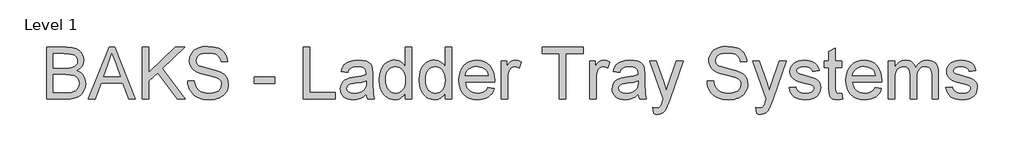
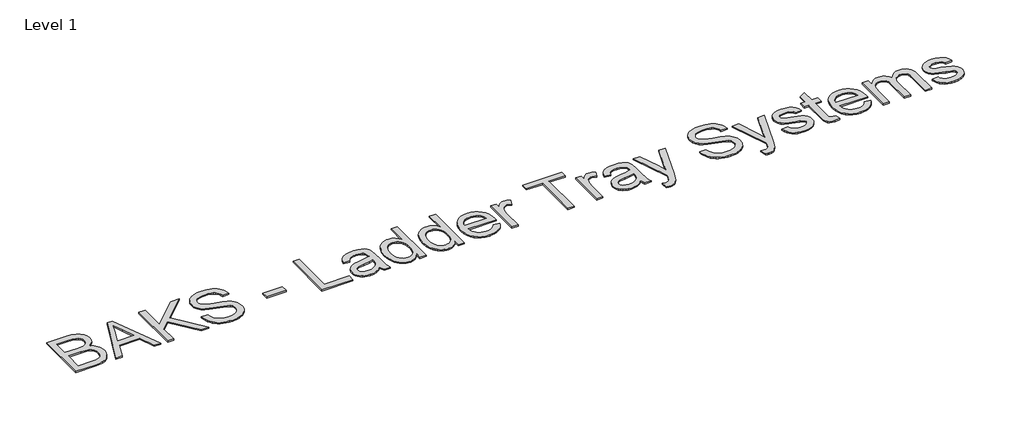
# One storey, part 83 of 106: 1 proxy.
"""IFC4 building model written with IfcOpenShell, lengths in millimetres."""

from ifc_helpers import new_model, si_unit, origin, origin_with_axes, place, context, project, spatial, polyline, outline, extrude, element, save

model = new_model("IFC4")

# Units and contexts
model_context = context("Model", 3, world=origin())
ifc_project = project(units=[si_unit("LENGTHUNIT", "METRE", prefix="MILLI")], contexts=[model_context])

# Site, building, storey
site = spatial("IfcSite", under=ifc_project)
building = spatial("IfcBuilding", under=site)
storey = spatial("IfcBuildingStorey", under=building, Name="Level 1", Elevation=0.0)

# Proxy
placement = place(None, origin())
element("IfcBuildingElementProxy", 1, Name="600mm Arial", ObjectType="600mm Arial", at=placement, inside=storey, context=model_context, shape_type="SweptSolid", body=[
    extrude(outline(polyline([(36097.5732613, 74450.7318965), (36097.5732613, 75053.4697574), (36327.5730847, 75053.4697574), (36390.8303938, 75049.0367793), (36440.2185516, 75035.7378452), (36460.2957115, 75025.6808712), (36478.0736089, 75013.2418612), (36493.5522439, 74998.4208153), (36506.7316164, 74981.2177335), (36524.7762282, 74943.5466172), (36530.7910988, 74904.1096673), (36525.7327214, 74867.8181085), (36510.5575891, 74833.6970535), (36485.1553373, 74803.8434295), (36449.4156015, 74780.3541642), (36472.1553073, 74770.6604736), (36492.1083071, 74758.0605152), (36509.2746007, 74742.5542891), (36523.6541881, 74724.1417953), (36535.0171433, 74703.3840537), (36543.1335398, 74680.8420845), (36548.0033777, 74656.5158875), (36549.626657, 74630.4054629), (36545.193679, 74588.374945), (36531.8947448, 74549.3978476), (36512.0475112, 74516.2516798), (36487.9696346, 74491.7139507), (36458.4838927, 74473.9452504), (36422.4130631, 74461.1061687), (36378.5799233, 74453.3254645), (36325.8072511, 74450.7318965), (36097.5732613, 74450.7318965)]), holes=[polyline([(36172.9154939, 74808.6075014), (36310.5033601, 74808.6075014), (36358.6223251, 74810.2261822), (36390.8487879, 74815.0822245), (36418.9733664, 74826.247443), (36439.188482, 74842.9676797), (36451.3837702, 74864.9854171), (36455.4488662, 74892.0431379), (36451.6596817, 74918.3099123), (36440.292128, 74941.1921724), (36421.8612401, 74959.0528433), (36396.8820526, 74970.2548501), (36358.5487487, 74976.1593561), (36300.0555115, 74978.1275248), (36172.9154939, 74978.1275248), (36172.9154939, 74808.6075014)]), polyline([(36172.9154939, 74526.0741291), (36327.4259319, 74526.0741291), (36383.3439952, 74529.017185), (36409.2980699, 74535.5470905), (36430.6536198, 74545.424722), (36448.0176499, 74559.5697847), (36461.9971657, 74578.9019836), (36471.2126097, 74602.5567959), (36474.2844244, 74629.6696989), (36470.6791808, 74661.1603977), (36459.8634502, 74688.2365126), (36440.9727097, 74709.4081214), (36413.1424368, 74723.1853021), (36373.723881, 74730.7452771), (36320.068292, 74733.2652688), (36172.9154939, 74733.2652688), (36172.9154939, 74526.0741291)])]), origin_with_axes(), (0.0, 0.0, 1.0), 15.0),
    extrude(outline(polyline([(36583.0303422, 74450.7318965), (36823.625167, 75053.4697574), (36887.783787, 75053.4697574), (37128.3786118, 74450.7318965), (37048.7689481, 74450.7318965), (36979.7542858, 74639.087478), (36731.5075154, 74639.087478), (36662.6400059, 74450.7318965), (36583.0303422, 74450.7318965)]), holes=[polyline([(36759.1722415, 74714.4297106), (36952.2367125, 74714.4297106), (36897.93733, 74862.6125783), (36855.704477, 74978.1275248), (36818.1805135, 74875.5620245), (36759.1722415, 74714.4297106)])]), origin_with_axes(), (0.0, 0.0, 1.0), 15.0),
    extrude(outline(polyline([(37208.8711924, 74450.7318965), (37208.8711924, 75053.4697574), (37284.213425, 75053.4697574), (37284.213425, 74758.4283972), (37593.2343009, 75053.4697574), (37698.5957043, 75053.4697574), (37439.1653213, 74805.6644454), (37708.0134834, 74450.7318965), (37615.8958318, 74450.7318965), (37385.7488556, 74754.7495773), (37284.213425, 74657.9230362), (37284.213425, 74450.7318965), (37208.8711924, 74450.7318965)])), origin_with_axes(), (0.0, 0.0, 1.0), 15.0),
    extrude(outline(polyline([(37736.2668206, 74657.9230362), (37811.6090533, 74657.9230362), (37820.2542801, 74616.1132474), (37835.8892649, 74582.5072271), (37860.2798412, 74555.8357825), (37895.1918426, 74534.8297206), (37937.866154, 74521.1996926), (37985.5436606, 74516.65635), (38027.5189962, 74520.0960467), (38064.2704075, 74530.4151366), (38094.050455, 74546.7490972), (38115.1116993, 74568.2334057), (38127.6380812, 74592.8998935), (38131.8135419, 74618.7803919), (38128.6865449, 74643.9987026), (38119.305554, 74665.7957109), (38100.2492667, 74684.3921457), (38068.0963803, 74700.0087364), (37958.3939693, 74728.7771084), (37886.3810688, 74747.8150017), (37840.3038489, 74765.9331899), (37802.7982795, 74791.2802594), (37776.2188053, 74821.998406), (37760.3814854, 74857.4254421), (37755.1023788, 74896.8991802), (37756.7348551, 74919.3353834), (37761.6322842, 74941.0266255), (37769.794666, 74961.9729066), (37781.2220005, 74982.1742267), (37795.7855289, 75000.8074498), (37813.3564927, 75017.0494398), (37833.9348918, 75030.900197), (37857.5207263, 75042.3597211), (37910.5325218, 75057.7555826), (37969.2097, 75062.8875364), (38032.7797088, 75057.5164593), (38088.4034664, 75041.4032279), (38112.7388604, 75029.4010778), (38134.0944102, 75014.8789361), (38152.4701159, 74997.8368026), (38167.8659774, 74978.2746776), (38180.1624331, 74956.7627779), (38189.2399213, 74933.8713207), (38195.0984421, 74909.6003061), (38197.7379954, 74883.949734), (38122.3957628, 74883.949734), (38117.3557794, 74907.9908224), (38108.5633998, 74928.9049138), (38096.0186237, 74946.6920083), (38079.7214513, 74961.3521058), (38059.36838, 74972.8116299), (38034.6559069, 74980.9970043), (38005.5840323, 74985.908229), (37972.1527559, 74987.5453038), (37937.6546218, 74985.9266231), (37908.178077, 74981.0705807), (37883.7231214, 74972.9771768), (37864.289755, 74961.6464114), (37849.4825047, 74948.0255805), (37838.9058973, 74933.0619803), (37832.5599329, 74916.7556109), (37830.4446114, 74899.1064722), (37831.9437305, 74883.9221428), (37836.4410879, 74870.1541592), (37843.9366836, 74857.8025212), (37854.4305175, 74846.8672289), (37870.9484191, 74836.5113507), (37896.9576761, 74826.045108), (37977.4502567, 74804.7815286), (38060.5180112, 74784.5848071), (38110.7706917, 74766.9632595), (38153.7209147, 74739.6296273), (38170.3261882, 74723.5623811), (38183.6849032, 74705.8948483), (38193.9534094, 74686.7189993), (38201.2880566, 74666.1268046), (38207.1557745, 74620.6933782), (38205.4681158, 74597.1259379), (38200.4051399, 74574.2482764), (38191.9668466, 74552.0603935), (38180.153236, 74530.5622894), (38165.1712418, 74510.5862971), (38147.2277975, 74492.9647495), (38126.3229031, 74477.6976467), (38102.4565586, 74464.7849887), (38076.3231414, 74454.5164825), (38048.6170286, 74447.1818352), (37988.4867165, 74441.3141174), (37949.946479, 74442.89601), (37914.6711942, 74447.6416877), (37882.6608621, 74455.5511506), (37853.9154827, 74466.6243987), (37828.2603121, 74480.879826), (37805.5206062, 74498.3358266), (37785.6963652, 74518.9924007), (37768.787589, 74542.8495481), (37755.1667581, 74569.1347166), (37745.2063531, 74597.0753542), (37738.906374, 74626.6714607), (37736.2668206, 74657.9230362)])), origin_with_axes(), (0.0, 0.0, 1.0), 15.0),
    extrude(outline(polyline([(38508.5247049, 74629.6696989), (38508.5247049, 74705.0119315), (38743.9691818, 74705.0119315), (38743.9691818, 74629.6696989), (38508.5247049, 74629.6696989)])), origin_with_axes(), (0.0, 0.0, 1.0), 15.0),
    extrude(outline(polyline([(39073.5914495, 74450.7318965), (39073.5914495, 75053.4697574), (39148.9336821, 75053.4697574), (39148.9336821, 74526.0741291), (39450.3026126, 74526.0741291), (39450.3026126, 74450.7318965), (39073.5914495, 74450.7318965)])), origin_with_axes(), (0.0, 0.0, 1.0), 15.0),
    extrude(outline(polyline([(39808.1782175, 74507.2385709), (39772.1809642, 74476.3732715), (39735.1168532, 74456.17655), (39696.1397558, 74445.0297255), (39654.4035435, 74441.3141174), (39620.8573041, 74443.5490005), (39591.44054, 74450.2536499), (39566.1532514, 74461.4280655), (39544.9954381, 74477.0722473), (39528.288997, 74496.192914), (39516.3558248, 74517.7967842), (39509.1959215, 74541.8838578), (39506.809287, 74568.4541349), (39510.4145306, 74599.6873163), (39521.2302612, 74628.0510181), (39537.9137097, 74652.3312298), (39559.1221067, 74671.3139408), (39584.0461119, 74685.6613386), (39611.8763848, 74696.0356109), (39677.0650744, 74707.3663763), (39754.0995642, 74719.285753), (39807.7367591, 74733.2652688), (39808.1782175, 74750.0406877), (39802.9910813, 74783.6651021), (39796.5071612, 74796.1179076), (39787.4296729, 74805.6644454), (39771.7395059, 74815.1925891), (39752.6280362, 74821.998406), (39704.1411892, 74827.4430595), (39659.2595858, 74823.8194219), (39627.9160398, 74812.9485089), (39606.5420959, 74792.8437579), (39591.5692987, 74761.518606), (39516.2270661, 74770.9363851), (39529.305271, 74812.1391685), (39548.8214109, 74844.5127841), (39576.5965015, 74869.2712424), (39614.4515588, 74887.6285539), (39660.7495079, 74898.9961076), (39713.8532739, 74902.7852921), (39764.7865361, 74899.437566), (39805.1615851, 74889.3943875), (39835.6038202, 74874.2928316), (39856.7386408, 74855.7699732), (39870.7549449, 74832.869319), (39879.8416301, 74804.6343758), (39883.5204501, 74738.7099223), (39883.5204501, 74644.9735899), (39887.3464228, 74514.081176), (39893.0118056, 74481.7259546), (39902.3560082, 74450.7318965), (39827.0137756, 74450.7318965), (39814.9472462, 74476.9250945), (39808.1782175, 74507.2385709)]), holes=[polyline([(39808.1782175, 74657.9230362), (39757.5576549, 74645.3782601), (39686.6300063, 74634.8200469), (39621.8091987, 74622.6063646), (39604.9418092, 74614.2554433), (39592.4522155, 74602.7407369), (39584.7266936, 74588.9451621), (39582.1515196, 74573.7516357), (39587.7617201, 74551.3476222), (39604.5923213, 74532.9903106), (39632.2754415, 74520.7398402), (39670.4431985, 74516.65635), (39710.910218, 74521.1629044), (39746.6683479, 74534.6825678), (39775.6574491, 74554.6033778), (39795.8173824, 74578.3133724), (39804.7569149, 74602.7407369), (39807.7367591, 74636.5858804), (39808.1782175, 74657.9230362)])]), origin_with_axes(), (0.0, 0.0, 1.0), 15.0),
    extrude(outline(polyline([(40260.2316131, 74450.7318965), (40260.2316131, 74521.8066979), (40237.6896439, 74486.591194), (40210.3836028, 74461.4372625), (40178.3134899, 74446.3449037), (40141.4793051, 74441.3141174), (40116.6104822, 74443.1351333), (40092.7717289, 74448.5981809), (40069.9630452, 74457.7032603), (40048.1844311, 74470.4503714), (40028.1164683, 74486.4578367), (40010.4397384, 74505.3439787), (39995.1542415, 74527.1087972), (39982.2599776, 74551.7522923), (39972.0236611, 74578.8054146), (39964.7120064, 74607.7991143), (39958.8626827, 74671.6082464), (39964.2521539, 74734.6264322), (39980.4205676, 74791.5377768), (39992.5422794, 74816.8940433), (40007.3495297, 74839.1049188), (40024.8423185, 74858.1704032), (40045.020646, 74874.0904965), (40067.1717406, 74886.6444696), (40090.5828311, 74895.6115932), (40115.2539174, 74900.9918674), (40141.1849995, 74902.7852921), (40178.0467754, 74897.6533383), (40210.6411202, 74882.2574768), (40238.269058, 74858.6578468), (40260.2316131, 74828.9145875), (40260.2316131, 75053.4697574), (40335.5738458, 75053.4697574), (40335.5738458, 74450.7318965), (40260.2316131, 74450.7318965)]), holes=[polyline([(40034.2049153, 74671.902552), (40036.3294338, 74635.3672713), (40042.7029894, 74603.7524124), (40053.325582, 74577.0579751), (40068.1972117, 74555.2839595), (40085.956715, 74538.3843803), (40105.2429286, 74526.3132524), (40126.0558525, 74519.0705756), (40148.3954866, 74516.65635), (40170.8408868, 74518.960211), (40191.5296505, 74525.871794), (40210.4617777, 74537.391099), (40227.6372684, 74553.5181259), (40241.8972942, 74574.3816336), (40252.083027, 74600.1103806), (40258.1944666, 74630.704367), (40260.2316131, 74666.1635928), (40258.1576784, 74705.0395227), (40251.9358742, 74738.3788285), (40241.5662004, 74766.1815103), (40227.0486572, 74788.447568), (40209.4960875, 74805.5080956), (40190.0213344, 74817.6941867), (40168.6243978, 74825.0058413), (40145.3052779, 74827.4430595), (40122.5241853, 74825.1024103), (40101.7112614, 74818.0804628), (40082.8665062, 74806.3772168), (40065.9899197, 74789.9926724), (40052.0839803, 74768.5681447), (40042.1511664, 74741.7449488), (40036.1914781, 74709.5230845), (40034.2049153, 74671.902552)])]), origin_with_axes(), (0.0, 0.0, 1.0), 15.0),
    extrude(outline(polyline([(40721.7027879, 74450.7318965), (40721.7027879, 74521.8066979), (40699.1608186, 74486.591194), (40671.8547776, 74461.4372625), (40639.7846646, 74446.3449037), (40602.9504799, 74441.3141174), (40578.081657, 74443.1351333), (40554.2429037, 74448.5981809), (40531.43422, 74457.7032603), (40509.6556059, 74470.4503714), (40489.587643, 74486.4578367), (40471.9109132, 74505.3439787), (40456.6254163, 74527.1087972), (40443.7311523, 74551.7522923), (40433.4948358, 74578.8054146), (40426.1831812, 74607.7991143), (40420.3338574, 74671.6082464), (40425.7233287, 74734.6264322), (40441.8917424, 74791.5377768), (40454.0134541, 74816.8940433), (40468.8207044, 74839.1049188), (40486.3134933, 74858.1704032), (40506.4918207, 74874.0904965), (40528.6429154, 74886.6444696), (40552.0540058, 74895.6115932), (40576.7250921, 74900.9918674), (40602.6561743, 74902.7852921), (40639.5179502, 74897.6533383), (40672.1122949, 74882.2574768), (40699.7402328, 74858.6578468), (40721.7027879, 74828.9145875), (40721.7027879, 75053.4697574), (40797.0450205, 75053.4697574), (40797.0450205, 74450.7318965), (40721.7027879, 74450.7318965)]), holes=[polyline([(40495.6760901, 74671.902552), (40497.8006086, 74635.3672713), (40504.1741642, 74603.7524124), (40514.7967568, 74577.0579751), (40529.6683864, 74555.2839595), (40547.4278897, 74538.3843803), (40566.7141033, 74526.3132524), (40587.5270272, 74519.0705756), (40609.8666614, 74516.65635), (40632.3120616, 74518.960211), (40653.0008253, 74525.871794), (40671.9329525, 74537.391099), (40689.1084431, 74553.5181259), (40703.368469, 74574.3816336), (40713.5542017, 74600.1103806), (40719.6656414, 74630.704367), (40721.7027879, 74666.1635928), (40719.6288532, 74705.0395227), (40713.4070489, 74738.3788285), (40703.0373752, 74766.1815103), (40688.5198319, 74788.447568), (40670.9672622, 74805.5080956), (40651.4925091, 74817.6941867), (40630.0955726, 74825.0058413), (40606.7764526, 74827.4430595), (40583.9953601, 74825.1024103), (40563.1824362, 74818.0804628), (40544.337681, 74806.3772168), (40527.4610944, 74789.9926724), (40513.555155, 74768.5681447), (40503.6223412, 74741.7449488), (40497.6626528, 74709.5230845), (40495.6760901, 74671.902552)])]), origin_with_axes(), (0.0, 0.0, 1.0), 15.0),
    extrude(outline(polyline([(41219.9621622, 74582.5808035), (41293.8328668, 74573.1630245), (41282.5066999, 74543.576115), (41267.2166044, 74517.5024786), (41247.9625805, 74494.9421152), (41224.7446281, 74475.8950249), (41197.8018705, 74460.7658779), (41167.373431, 74449.9593443), (41133.4593095, 74443.4754241), (41096.0595062, 74441.3141174), (41049.3109017, 74445.0435211), (41007.6574627, 74456.2317323), (40971.0991895, 74474.8787509), (40939.6360818, 74500.984577), (40914.3349976, 74533.8226436), (40896.2627946, 74572.6663838), (40885.4194728, 74617.5157975), (40881.8050322, 74668.3708848), (40885.456261, 74720.950419), (40896.4099474, 74767.2943533), (40914.6660914, 74807.4026878), (40940.224693, 74841.2754226), (40971.6050272, 74868.1859905), (41007.326369, 74887.4078247), (41047.3887182, 74898.9409253), (41091.792075, 74902.7852921), (41134.7652906, 74898.9501223), (41173.6274249, 74887.4446129), (41208.3784778, 74868.2687639), (41239.0184495, 74841.4225753), (41264.0298267, 74807.623417), (41281.8950961, 74767.5886589), (41292.6142577, 74721.318301), (41296.1873116, 74668.8123432), (41295.7458532, 74648.5052571), (40957.1472648, 74648.5052571), (40961.511265, 74618.440101), (40970.1886815, 74592.1089472), (40983.1795145, 74569.5117957), (41000.4837638, 74550.6486464), (41021.1449364, 74535.7770167), (41044.206539, 74525.1544241), (41069.6685716, 74518.7808685), (41097.5310342, 74516.65635), (41137.6301716, 74520.5926874), (41171.4017388, 74532.4016994), (41198.8457356, 74552.8191501), (41219.9621622, 74582.5808035)]), holes=[polyline([(40957.1472648, 74723.8474897), (41220.845079, 74723.8474897), (41210.6547477, 74763.6523216), (41201.8899592, 74779.3057005), (41190.6787553, 74792.126388), (41170.1325459, 74807.5774318), (41146.7536451, 74818.6138916), (41120.542053, 74825.2357676), (41091.4977695, 74827.4430595), (41065.0056673, 74825.6818245), (41040.71166, 74820.3981193), (41018.6157477, 74811.5919441), (40998.7179303, 74799.2632987), (40982.0206862, 74783.9824003), (40969.5264939, 74766.319466), (40961.2353535, 74746.2744958), (40957.1472648, 74723.8474897)])]), origin_with_axes(), (0.0, 0.0, 1.0), 15.0),
    extrude(outline(polyline([(41371.5295442, 74450.7318965), (41371.5295442, 74893.3675131), (41437.4539977, 74893.3675131), (41437.4539977, 74827.8845179), (41461.8077858, 74865.8499398), (41484.2485875, 74888.2171651), (41506.7629656, 74899.1432604), (41531.3374829, 74902.7852921), (41568.8614464, 74896.9727566), (41606.9740211, 74879.5351501), (41581.8108926, 74811.9920157), (41555.323389, 74823.5802986), (41528.8358853, 74827.4430595), (41506.3399013, 74823.7274514), (41486.2351503, 74812.5806269), (41469.9931602, 74794.8487148), (41459.085459, 74771.3778435), (41449.9251974, 74729.2921432), (41446.8717768, 74683.3804702), (41446.8717768, 74450.7318965), (41371.5295442, 74450.7318965)])), origin_with_axes(), (0.0, 0.0, 1.0), 15.0),
    extrude(outline(polyline([(42049.6096377, 74450.7318965), (42049.6096377, 74978.1275248), (41851.8362771, 74978.1275248), (41851.8362771, 75053.4697574), (42322.7252309, 75053.4697574), (42322.7252309, 74978.1275248), (42124.9518703, 74978.1275248), (42124.9518703, 74450.7318965), (42049.6096377, 74450.7318965)])), origin_with_axes(), (0.0, 0.0, 1.0), 15.0),
    extrude(outline(polyline([(42398.0674635, 74450.7318965), (42398.0674635, 74893.3675131), (42463.9919171, 74893.3675131), (42463.9919171, 74827.8845179), (42488.3457051, 74865.8499398), (42510.7865068, 74888.2171651), (42533.3008849, 74899.1432604), (42557.8754022, 74902.7852921), (42595.3993657, 74896.9727566), (42633.5119404, 74879.5351501), (42608.348812, 74811.9920157), (42581.8613083, 74823.5802986), (42555.3738047, 74827.4430595), (42532.8778207, 74823.7274514), (42512.7730696, 74812.5806269), (42496.5310795, 74794.8487148), (42485.6233784, 74771.3778435), (42476.4631167, 74729.2921432), (42473.4096961, 74683.3804702), (42473.4096961, 74450.7318965), (42398.0674635, 74450.7318965)])), origin_with_axes(), (0.0, 0.0, 1.0), 15.0),
    extrude(outline(polyline([(42963.1342081, 74507.2385709), (42927.1369549, 74476.3732715), (42890.0728439, 74456.17655), (42851.0957465, 74445.0297255), (42809.3595341, 74441.3141174), (42775.8132947, 74443.5490005), (42746.3965307, 74450.2536499), (42721.109242, 74461.4280655), (42699.9514288, 74477.0722473), (42683.2449877, 74496.192914), (42671.3118154, 74517.7967842), (42664.1519121, 74541.8838578), (42661.7652777, 74568.4541349), (42665.3705212, 74599.6873163), (42676.1862519, 74628.0510181), (42692.8697004, 74652.3312298), (42714.0780974, 74671.3139408), (42739.0021026, 74685.6613386), (42766.8323755, 74696.0356109), (42832.021065, 74707.3663763), (42909.0555548, 74719.285753), (42962.6927497, 74733.2652688), (42963.1342081, 74750.0406877), (42957.947072, 74783.6651021), (42951.4631518, 74796.1179076), (42942.3856636, 74805.6644454), (42926.6954965, 74815.1925891), (42907.5840268, 74821.998406), (42859.0971799, 74827.4430595), (42814.2155765, 74823.8194219), (42782.8720305, 74812.9485089), (42761.4980866, 74792.8437579), (42746.5252894, 74761.518606), (42671.1830567, 74770.9363851), (42684.2612617, 74812.1391685), (42703.7774015, 74844.5127841), (42731.5524921, 74869.2712424), (42769.4075495, 74887.6285539), (42815.7054985, 74898.9961076), (42868.8092645, 74902.7852921), (42919.7425268, 74899.437566), (42960.1175758, 74889.3943875), (42990.5598109, 74874.2928316), (43011.6946315, 74855.7699732), (43025.7109355, 74832.869319), (43034.7976208, 74804.6343758), (43038.4764407, 74738.7099223), (43038.4764407, 74644.9735899), (43042.3024135, 74514.081176), (43047.9677962, 74481.7259546), (43057.3119989, 74450.7318965), (42981.9697663, 74450.7318965), (42969.9032368, 74476.9250945), (42963.1342081, 74507.2385709)]), holes=[polyline([(42963.1342081, 74657.9230362), (42912.5136456, 74645.3782601), (42841.5859969, 74634.8200469), (42776.7651894, 74622.6063646), (42759.8977999, 74614.2554433), (42747.4082061, 74602.7407369), (42739.6826842, 74588.9451621), (42737.1075103, 74573.7516357), (42742.7177107, 74551.3476222), (42759.548312, 74532.9903106), (42787.2314321, 74520.7398402), (42825.3991891, 74516.65635), (42865.8662086, 74521.1629044), (42901.6243385, 74534.6825678), (42930.6134397, 74554.6033778), (42950.7733731, 74578.3133724), (42959.7129056, 74602.7407369), (42962.6927497, 74636.5858804), (42963.1342081, 74657.9230362)])]), origin_with_axes(), (0.0, 0.0, 1.0), 15.0),
    extrude(outline(polyline([(43142.0720106, 74281.2118731), (43132.6542315, 74353.7582025), (43170.913959, 74347.1363266), (43191.0371041, 74349.2148599), (43206.6720889, 74355.4504597), (43218.848983, 74365.4016677), (43228.5978558, 74378.6270254), (43249.1992476, 74434.1036303), (43255.0853595, 74452.3505773), (43094.9831152, 74893.3675131), (43174.4456261, 74893.3675131), (43259.3527906, 74647.6223403), (43288.930503, 74549.3242712), (43318.5082155, 74636.144422), (43405.7698247, 74893.3675131), (43484.6437245, 74893.3675131), (43330.5747449, 74440.136895), (43290.5491838, 74341.8388259), (43270.0581567, 74310.4584917), (43246.8448028, 74288.7166658), (43219.8790525, 74276.024737), (43188.1308364, 74271.794094), (43166.315434, 74274.1485388), (43142.0720106, 74281.2118731)])), origin_with_axes(), (0.0, 0.0, 1.0), 15.0),
    extrude(outline(polyline([(43763.6454296, 74657.9230362), (43838.9876622, 74657.9230362), (43847.6328891, 74616.1132474), (43863.2678739, 74582.5072271), (43887.6584502, 74555.8357825), (43922.5704515, 74534.8297206), (43965.244763, 74521.1996926), (44012.9222695, 74516.65635), (44054.8976052, 74520.0960467), (44091.6490165, 74530.4151366), (44121.429064, 74546.7490972), (44142.4903082, 74568.2334057), (44155.0166902, 74592.8998935), (44159.1921508, 74618.7803919), (44156.0651539, 74643.9987026), (44146.684163, 74665.7957109), (44127.6278756, 74684.3921457), (44095.4749893, 74700.0087364), (43985.7725783, 74728.7771084), (43913.7596777, 74747.8150017), (43867.6824579, 74765.9331899), (43830.1768884, 74791.2802594), (43803.5974143, 74821.998406), (43787.7600944, 74857.4254421), (43782.4809878, 74896.8991802), (43784.1134641, 74919.3353834), (43789.0108932, 74941.0266255), (43797.173275, 74961.9729066), (43808.6006094, 74982.1742267), (43823.1641379, 75000.8074498), (43840.7351017, 75017.0494398), (43861.3135008, 75030.900197), (43884.8993352, 75042.3597211), (43937.9111307, 75057.7555826), (43996.588309, 75062.8875364), (44060.1583177, 75057.5164593), (44115.7820754, 75041.4032279), (44140.1174694, 75029.4010778), (44161.4730192, 75014.8789361), (44179.8487249, 74997.8368026), (44195.2445864, 74978.2746776), (44207.541042, 74956.7627779), (44216.6185303, 74933.8713207), (44222.4770511, 74909.6003061), (44225.1166044, 74883.949734), (44149.7743718, 74883.949734), (44144.7343884, 74907.9908224), (44135.9420087, 74928.9049138), (44123.3972327, 74946.6920083), (44107.1000603, 74961.3521058), (44086.7469889, 74972.8116299), (44062.0345159, 74980.9970043), (44032.9626412, 74985.908229), (43999.5313649, 74987.5453038), (43965.0332308, 74985.9266231), (43935.556686, 74981.0705807), (43911.1017303, 74972.9771768), (43891.6683639, 74961.6464114), (43876.8611136, 74948.0255805), (43866.2845063, 74933.0619803), (43859.9385419, 74916.7556109), (43857.8232204, 74899.1064722), (43859.3223395, 74883.9221428), (43863.8196969, 74870.1541592), (43871.3152926, 74857.8025212), (43881.8091265, 74846.8672289), (43898.3270281, 74836.5113507), (43924.3362851, 74826.045108), (44004.8288657, 74804.7815286), (44087.8966202, 74784.5848071), (44138.1493007, 74766.9632595), (44181.0995236, 74739.6296273), (44197.7047972, 74723.5623811), (44211.0635122, 74705.8948483), (44221.3320183, 74686.7189993), (44228.6666656, 74666.1268046), (44234.5343834, 74620.6933782), (44232.8467248, 74597.1259379), (44227.7837488, 74574.2482764), (44219.3454556, 74552.0603935), (44207.531845, 74530.5622894), (44192.5498507, 74510.5862971), (44174.6064064, 74492.9647495), (44153.7015121, 74477.6976467), (44129.8351676, 74464.7849887), (44103.7017504, 74454.5164825), (44075.9956376, 74447.1818352), (44015.8653255, 74441.3141174), (43977.325088, 74442.89601), (43942.0498032, 74447.6416877), (43910.0394711, 74455.5511506), (43881.2940917, 74466.6243987), (43855.638921, 74480.879826), (43832.8992152, 74498.3358266), (43813.0749742, 74518.9924007), (43796.166198, 74542.8495481), (43782.5453671, 74569.1347166), (43772.5849621, 74597.0753542), (43766.2849829, 74626.6714607), (43763.6454296, 74657.9230362)])), origin_with_axes(), (0.0, 0.0, 1.0), 15.0),
    extrude(outline(polyline([(44338.1299533, 74281.2118731), (44328.7121742, 74353.7582025), (44366.9719017, 74347.1363266), (44387.0950468, 74349.2148599), (44402.7300316, 74355.4504597), (44414.9069257, 74365.4016677), (44424.6557986, 74378.6270254), (44445.2571903, 74434.1036303), (44451.1433022, 74452.3505773), (44291.0410579, 74893.3675131), (44370.5035689, 74893.3675131), (44455.4107333, 74647.6223403), (44484.9884458, 74549.3242712), (44514.5661582, 74636.144422), (44601.8277674, 74893.3675131), (44680.7016672, 74893.3675131), (44526.6326876, 74440.136895), (44486.6071265, 74341.8388259), (44466.1160994, 74310.4584917), (44442.9027455, 74288.7166658), (44415.9369953, 74276.024737), (44384.1887791, 74271.794094), (44362.3733768, 74274.1485388), (44338.1299533, 74281.2118731)])), origin_with_axes(), (0.0, 0.0, 1.0), 15.0),
    extrude(outline(polyline([(44714.8411163, 74582.5808035), (44790.183349, 74591.9985826), (44794.7358886, 74574.8184934), (44802.0659374, 74559.7721198), (44812.1734952, 74546.8594618), (44825.0585621, 74536.0805194), (44840.7579262, 74527.5824453), (44859.3083759, 74521.5123923), (44904.9625315, 74516.65635), (44950.0648641, 74521.1077221), (44967.5944411, 74526.6719373), (44981.776292, 74534.4618386), (45000.5382738, 74553.8124315), (45005.2287692, 74564.6465563), (45006.7922677, 74576.2532332), (45005.2195722, 74586.4251704), (45000.5014856, 74595.4566734), (44981.6291392, 74610.0983768), (44953.4125902, 74619.6633087), (44904.0796147, 74631.5826853), (44835.3224698, 74651.4667071), (44790.6248074, 74668.4444612), (44761.9116176, 74686.9673197), (44741.1078908, 74711.4866547), (44728.4711443, 74740.4389677), (44724.2588954, 74772.2607603), (44727.6434098, 74801.4521966), (44737.7969528, 74828.3995527), (44753.7998196, 74852.0359709), (44774.7323052, 74871.2945934), (44795.536032, 74883.4163051), (44822.6305409, 74893.5882423), (44853.9556928, 74900.4860297), (44887.4513485, 74902.7852921), (44936.4900184, 74899.0880781), (44979.1275417, 74887.9964359), (45013.4141436, 74870.5956176), (45037.4000497, 74847.9708749), (45053.2925519, 74818.4483448), (45063.2989422, 74780.3541642), (44987.9567096, 74770.9363851), (44978.44696, 74794.6463797), (44959.6297959, 74812.5070505), (44931.3212764, 74823.7090573), (44893.3374604, 74827.4430595), (44850.0745378, 74823.8746042), (44821.2325894, 74813.1692381), (44805.0089934, 74797.7181943), (44799.601128, 74779.9127058), (44801.8452082, 74768.3244229), (44808.5774487, 74757.9869388), (44820.0921552, 74748.7531008), (44836.6836331, 74741.3586727), (44901.5780171, 74725.3190177), (45012.1633448, 74689.8551933), (45041.3731753, 74672.8958334), (45063.5196714, 74649.6824795), (45077.4807931, 74620.1415553), (45082.1345003, 74584.1994843), (45076.6714527, 74547.0434028), (45060.2823098, 74512.0946133), (45033.5924711, 74482.0938366), (44997.2273358, 74459.7817936), (44953.3022256, 74445.9310364), (44903.9324619, 74441.3141174), (44863.3826689, 74443.5398035), (44827.9648299, 74450.2168617), (44797.6789446, 74461.345292), (44772.5250132, 74476.9250945), (44751.9788038, 74496.8826928), (44735.5160845, 74521.1445103), (44723.1368553, 74549.7105473), (44714.8411163, 74582.5808035)])), origin_with_axes(), (0.0, 0.0, 1.0), 15.0),
    extrude(outline(polyline([(45326.9967563, 74513.5661412), (45336.4145354, 74448.5246045), (45280.0550137, 74441.3141174), (45243.8922136, 74444.4411144), (45216.9264634, 74453.8221052), (45197.870176, 74468.2798676), (45185.4357646, 74486.6371792), (45178.5931595, 74518.1646662), (45176.3122911, 74572.1329549), (45176.3122911, 74818.0252805), (45119.8056166, 74818.0252805), (45119.8056166, 74893.3675131), (45176.3122911, 74893.3675131), (45176.3122911, 75000.9362085), (45251.6545237, 75045.2292007), (45251.6545237, 74893.3675131), (45326.9967563, 74893.3675131), (45326.9967563, 74818.0252805), (45251.6545237, 74818.0252805), (45251.6545237, 74574.3402469), (45255.6276493, 74535.4919082), (45268.5035191, 74521.7331215), (45279.374432, 74517.9255429), (45294.1816823, 74516.65635), (45326.9967563, 74513.5661412)])), origin_with_axes(), (0.0, 0.0, 1.0), 15.0),
    extrude(outline(polyline([(45712.2427817, 74582.5808035), (45786.1134863, 74573.1630245), (45774.7873194, 74543.576115), (45759.4972239, 74517.5024786), (45740.2432, 74494.9421152), (45717.0252476, 74475.8950249), (45690.08249, 74460.7658779), (45659.6540505, 74449.9593443), (45625.739929, 74443.4754241), (45588.3401257, 74441.3141174), (45541.5915212, 74445.0435211), (45499.9380823, 74456.2317323), (45463.379809, 74474.8787509), (45431.9167013, 74500.984577), (45406.6156171, 74533.8226436), (45388.5434141, 74572.6663838), (45377.7000923, 74617.5157975), (45374.0856517, 74668.3708848), (45377.7368805, 74720.950419), (45388.6905669, 74767.2943533), (45406.9467109, 74807.4026878), (45432.5053125, 74841.2754226), (45463.8856467, 74868.1859905), (45499.6069885, 74887.4078247), (45539.6693377, 74898.9409253), (45584.0726945, 74902.7852921), (45627.0459101, 74898.9501223), (45665.9080444, 74887.4446129), (45700.6590973, 74868.2687639), (45731.299069, 74841.4225753), (45756.3104462, 74807.623417), (45774.1757156, 74767.5886589), (45784.8948772, 74721.318301), (45788.4679311, 74668.8123432), (45788.0264727, 74648.5052571), (45449.4278843, 74648.5052571), (45453.7918845, 74618.440101), (45462.469301, 74592.1089472), (45475.460134, 74569.5117957), (45492.7643833, 74550.6486464), (45513.4255559, 74535.7770167), (45536.4871585, 74525.1544241), (45561.9491911, 74518.7808685), (45589.8116537, 74516.65635), (45629.9107911, 74520.5926874), (45663.6823583, 74532.4016994), (45691.1263551, 74552.8191501), (45712.2427817, 74582.5808035)]), holes=[polyline([(45449.4278843, 74723.8474897), (45713.1256985, 74723.8474897), (45702.9353672, 74763.6523216), (45694.1705787, 74779.3057005), (45682.9593749, 74792.126388), (45662.4131654, 74807.5774318), (45639.0342646, 74818.6138916), (45612.8226725, 74825.2357676), (45583.778389, 74827.4430595), (45557.2862868, 74825.6818245), (45532.9922795, 74820.3981193), (45510.8963672, 74811.5919441), (45490.9985498, 74799.2632987), (45474.3013057, 74783.9824003), (45461.8071135, 74766.319466), (45453.515973, 74746.2744958), (45449.4278843, 74723.8474897)])]), origin_with_axes(), (0.0, 0.0, 1.0), 15.0),
    extrude(outline(polyline([(45863.8101637, 74450.7318965), (45863.8101637, 74893.3675131), (45939.1523963, 74893.3675131), (45939.1523963, 74820.526878), (45961.8139272, 74853.9857455), (45990.9501812, 74880.1973376), (46025.567877, 74897.1383035), (46064.673733, 74902.7852921), (46106.5754923, 74897.0279389), (46124.408572, 74889.8312474), (46140.1631185, 74879.7558792), (46165.2526705, 74852.1095473), (46181.6602075, 74815.2293773), (46209.1225985, 74853.53509), (46240.4477503, 74880.8963134), (46275.6356632, 74897.3130475), (46314.686337, 74902.7852921), (46344.848062, 74900.5090223), (46371.3217701, 74893.6802128), (46394.1074612, 74882.2988635), (46413.2051353, 74866.3649746), (46428.3020927, 74845.694605), (46439.0856336, 74820.1038137), (46445.5557582, 74789.5926008), (46447.7124664, 74754.1609661), (46447.7124664, 74450.7318965), (46372.3702338, 74450.7318965), (46372.3702338, 74721.7873505), (46370.6227943, 74759.3664963), (46365.3804759, 74784.6951717), (46355.5580266, 74802.0408078), (46340.0701946, 74815.6708357), (46320.1493846, 74824.5000036), (46297.0280012, 74827.4430595), (46275.6770499, 74825.5576643), (46256.2114938, 74819.9014786), (46238.631333, 74810.4745025), (46222.9365674, 74797.2767359), (46210.0285079, 74779.9219028), (46200.8084654, 74758.023727), (46195.2764399, 74731.5822086), (46193.4324314, 74700.5973476), (46193.4324314, 74450.7318965), (46118.0901987, 74450.7318965), (46118.0901987, 74730.17506), (46113.7307971, 74772.775795), (46108.2815451, 74789.4960317), (46100.6525922, 74803.1628479), (46090.5404358, 74813.7854405), (46077.6415734, 74821.3730066), (46061.9560048, 74825.9255463), (46043.4837301, 74827.4430595), (46014.4578407, 74823.3963576), (45987.7128197, 74811.2562517), (45965.6398999, 74791.3170476), (45950.6303145, 74763.8730508), (45942.0218759, 74725.7972643), (45939.1523963, 74673.9626911), (45939.1523963, 74450.7318965), (45863.8101637, 74450.7318965)])), origin_with_axes(), (0.0, 0.0, 1.0), 15.0),
    extrude(outline(polyline([(46532.4724781, 74582.5808035), (46607.8147107, 74591.9985826), (46612.3672504, 74574.8184934), (46619.6972992, 74559.7721198), (46629.804857, 74546.8594618), (46642.6899239, 74536.0805194), (46658.389288, 74527.5824453), (46676.9397376, 74521.5123923), (46722.5938932, 74516.65635), (46767.6962258, 74521.1077221), (46785.2258029, 74526.6719373), (46799.4076538, 74534.4618386), (46818.1696356, 74553.8124315), (46822.860131, 74564.6465563), (46824.4236295, 74576.2532332), (46822.850934, 74586.4251704), (46818.1328474, 74595.4566734), (46799.260501, 74610.0983768), (46771.043952, 74619.6633087), (46721.7109764, 74631.5826853), (46652.9538315, 74651.4667071), (46608.2561691, 74668.4444612), (46579.5429794, 74686.9673197), (46558.7392526, 74711.4866547), (46546.102506, 74740.4389677), (46541.8902572, 74772.2607603), (46545.2747715, 74801.4521966), (46555.4283146, 74828.3995527), (46571.4311814, 74852.0359709), (46592.3636669, 74871.2945934), (46613.1673938, 74883.4163051), (46640.2619027, 74893.5882423), (46671.5870546, 74900.4860297), (46705.0827103, 74902.7852921), (46754.1213802, 74899.0880781), (46796.7589035, 74887.9964359), (46831.0455054, 74870.5956176), (46855.0314115, 74847.9708749), (46870.9239137, 74818.4483448), (46880.9303039, 74780.3541642), (46805.5880713, 74770.9363851), (46796.0783218, 74794.6463797), (46777.2611577, 74812.5070505), (46748.9526382, 74823.7090573), (46710.9688222, 74827.4430595), (46667.7058995, 74823.8746042), (46638.8639511, 74813.1692381), (46622.6403551, 74797.7181943), (46617.2324898, 74779.9127058), (46619.47657, 74768.3244229), (46626.2088105, 74757.9869388), (46637.7235169, 74748.7531008), (46654.3149949, 74741.3586727), (46719.2093789, 74725.3190177), (46829.7947066, 74689.8551933), (46859.004537, 74672.8958334), (46881.1510331, 74649.6824795), (46895.1121549, 74620.1415553), (46899.7658621, 74584.1994843), (46894.3028145, 74547.0434028), (46877.9136716, 74512.0946133), (46851.2238328, 74482.0938366), (46814.8586976, 74459.7817936), (46770.9335874, 74445.9310364), (46721.5638236, 74441.3141174), (46681.0140307, 74443.5398035), (46645.5961916, 74450.2168617), (46615.3103064, 74461.345292), (46590.156375, 74476.9250945), (46569.6101655, 74496.8826928), (46553.1474462, 74521.1445103), (46540.7682171, 74549.7105473), (46532.4724781, 74582.5808035)])), origin_with_axes(), (0.0, 0.0, 1.0), 15.0),
])

save(model, "model.ifc")
